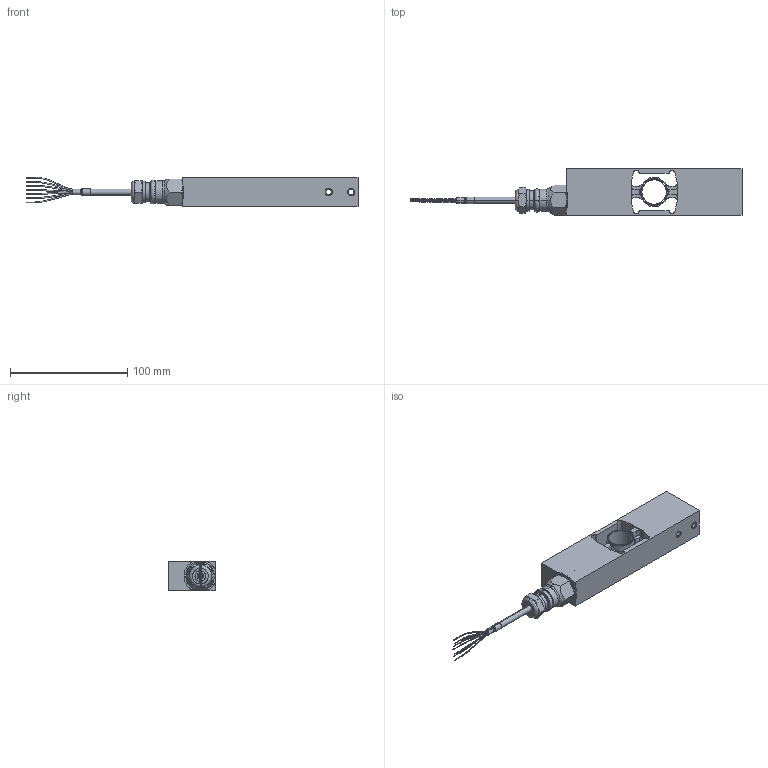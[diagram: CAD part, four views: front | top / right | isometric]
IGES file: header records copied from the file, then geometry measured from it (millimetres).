
Start section: SolidWorks IGES file using analytic representation for surfaces
Global section: file name: C:\0_Work\SolidWorks\0_Load Points\HI SP4 Series\Load_Sensor_HISP4 Series.IGS; native system: SolidWorks 2020; preprocessor: SolidWorks 2020; author: vach01; date: 230620.075301; units: millimetre
Bounding box: 283.39 x 40 x 25.13 mm (x, y, z)
Surface area: 48182.7 mm2 (no closed solid volume)
Topology: 0 solids, 0 shells, 1050 faces, 20962 edges, 20954 vertices
Faces by surface type: bspline 606, revolution 444
